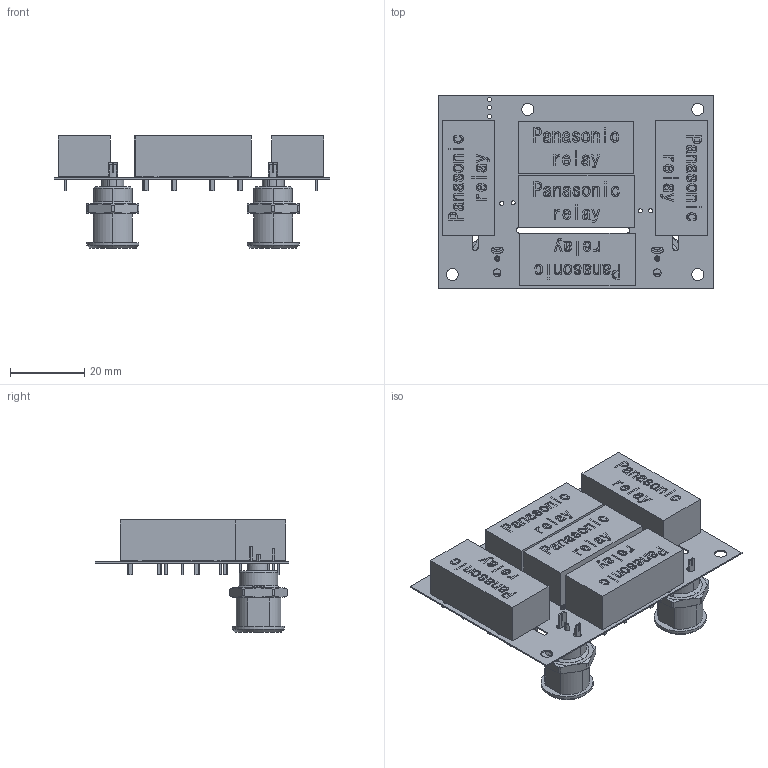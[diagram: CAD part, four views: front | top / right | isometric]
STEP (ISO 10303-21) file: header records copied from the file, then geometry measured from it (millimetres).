
FILE_DESCRIPTION(('Open CASCADE Model'),'2;1');
FILE_NAME('Open CASCADE Shape Model','2026-09-16T11:22:40',('Author'),( 'Open CASCADE'),'Open CASCADE STEP processor 7.5','Open CASCADE 7.5' ,'Unknown');
FILE_SCHEMA(('AUTOMOTIVE_DESIGN { 1 0 10303 214 1 1 1 1 }'));
Length unit declared in the file: millimetre
Products named in the file (14): PCB; Board; Open CASCADE STEP translator 7.5 2.1.1; K9; ST1-L2-DC5V-F; K7; K5; K3; K1; HV; ern_1s_650_ctl; Open CASCADE STEP translator 7.5 2.7.1.1; Open CASCADE STEP translator 7.5 2.7.1.2; CH_A
Assembly tree (18 placements, depth 4):
  PCB
    Board
      Open CASCADE STEP translator 7.5 2.1.1
    K9
      ST1-L2-DC5V-F
    K7
      ST1-L2-DC5V-F
    K5
      ST1-L2-DC5V-F
    K3
      ST1-L2-DC5V-F
    K1
      ST1-L2-DC5V-F
    HV
      ern_1s_650_ctl
        Open CASCADE STEP translator 7.5 2.7.1.1
        Open CASCADE STEP translator 7.5 2.7.1.2
    CH_A
      ern_1s_650_ctl
        Open CASCADE STEP translator 7.5 2.7.1.1
        Open CASCADE STEP translator 7.5 2.7.1.2
Bounding box: 74.17 x 52.07 x 30.16 mm (x, y, z)
Volume: 29072.6 mm3; surface area: 19630.6 mm2
Topology: 10 solids, 10 shells, 1829 faces, 4918 edges, 3260 vertices
Faces by surface type: bspline 855, plane 739, cylinder 175, cone 60
Full cylindrical faces by diameter (mm): 1.118 x7, 1.396 x40, 1.422 x2, 2.082 x2, 3.252 x4
Entity records: 20988 total; most frequent: CARTESIAN_POINT 9116, ORIENTED_EDGE 2658, DIRECTION 1882, EDGE_CURVE 1329, VERTEX_POINT 878, LINE 698, VECTOR 698, FACE_BOUND 653
